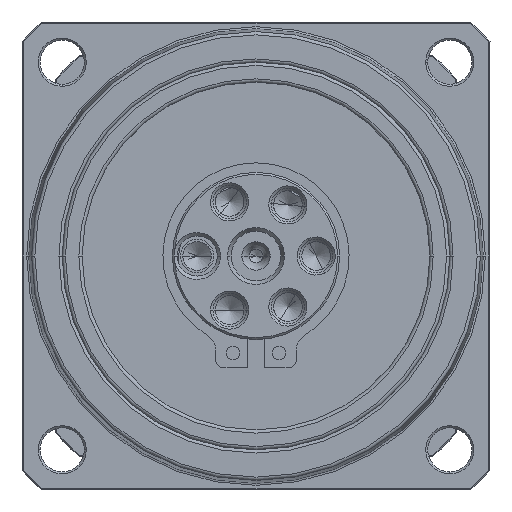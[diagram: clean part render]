
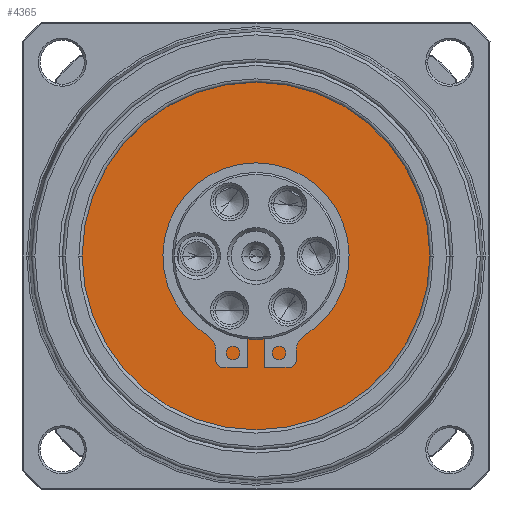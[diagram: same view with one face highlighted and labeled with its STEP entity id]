
A CAD part, left-side view. The second image highlights one B-rep face of the part: STEP entity #4365.
In plain terms, the highlighted planar face has unit normal (-1, 0, 0).
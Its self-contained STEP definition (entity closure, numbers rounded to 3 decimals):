
#3408=CARTESIAN_POINT('',(-32.,0.,0.));
#3409=DIRECTION('',(1.,0.,0.));
#3410=DIRECTION('',(0.,1.,0.));
#3411=AXIS2_PLACEMENT_3D('',#3408,#3409,#3410);
#3417=CARTESIAN_POINT('',(-32.,0.,0.));
#3418=DIRECTION('',(-1.,0.,0.));
#3419=DIRECTION('',(0.,1.,0.));
#3420=AXIS2_PLACEMENT_3D('',#3417,#3418,#3419);
#3436=CARTESIAN_POINT('',(-32.,0.,0.));
#3437=DIRECTION('',(-1.,0.,0.));
#3438=DIRECTION('',(0.,1.,0.));
#3439=AXIS2_PLACEMENT_3D('',#3436,#3437,#3438);
#3441=CARTESIAN_POINT('',(-32.,0.,0.));
#3442=DIRECTION('',(1.,0.,0.));
#3443=DIRECTION('',(0.,1.,0.));
#3444=AXIS2_PLACEMENT_3D('',#3441,#3442,#3443);
#3829=CARTESIAN_POINT('',(-32.,26.,0.));
#3831=VERTEX_POINT('',#3829);
#3833=CARTESIAN_POINT('',(-32.,-26.,0.));
#3835=VERTEX_POINT('',#3833);
#3836=CARTESIAN_POINT('',(-32.,12.5,0.));
#3837=CARTESIAN_POINT('',(-32.,-12.5,0.));
#3838=VERTEX_POINT('',#3836);
#3839=VERTEX_POINT('',#3837);
#4350=CARTESIAN_POINT('',(-32.,0.,0.));
#4351=DIRECTION('',(1.,0.,0.));
#4352=DIRECTION('',(0.,-1.,0.));
#4353=AXIS2_PLACEMENT_3D('',#4350,#4351,#4352);
#4354=PLANE('',#4353);
#4356=ORIENTED_EDGE('',*,*,#4355,.F.);
#4358=ORIENTED_EDGE('',*,*,#4357,.T.);
#4359=EDGE_LOOP('',(#4356,#4358));
#4360=FACE_OUTER_BOUND('',#4359,.F.);
#4361=ORIENTED_EDGE('',*,*,#4317,.F.);
#4362=ORIENTED_EDGE('',*,*,#4332,.T.);
#4363=EDGE_LOOP('',(#4361,#4362));
#4364=FACE_BOUND('',#4363,.F.);
#4365=ADVANCED_FACE('',(#4360,#4364),#4354,.F.);
#3412=CIRCLE('',#3411,12.5);
#3421=CIRCLE('',#3420,12.5);
#3440=CIRCLE('',#3439,26.);
#3445=CIRCLE('',#3444,26.);
#4317=EDGE_CURVE('',#3838,#3839,#3412,.T.);
#4332=EDGE_CURVE('',#3838,#3839,#3421,.T.);
#4355=EDGE_CURVE('',#3831,#3835,#3440,.T.);
#4357=EDGE_CURVE('',#3831,#3835,#3445,.T.);
